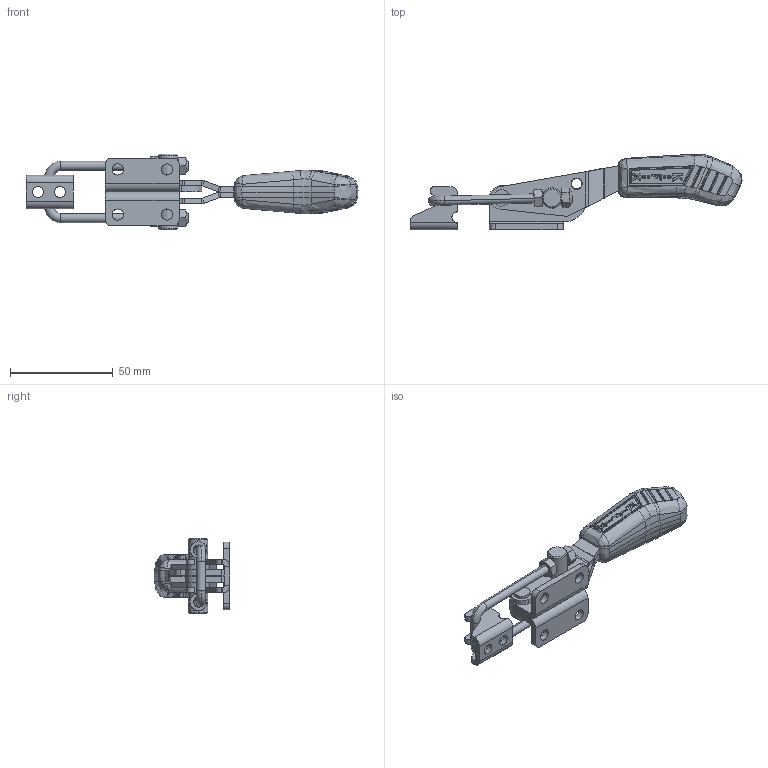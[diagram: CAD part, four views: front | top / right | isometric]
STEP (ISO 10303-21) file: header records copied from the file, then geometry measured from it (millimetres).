
FILE_DESCRIPTION (( 'STEP AP203' ), '1' );
FILE_NAME ('KF-743 DC.STEP', '2017-10-05T11:59:39', ( 'Ricardo' ), ( '' ), 'SwSTEP 2.0', 'SolidWorks 2015', '' );
FILE_SCHEMA (( 'CONFIG_CONTROL_DESIGN' ));
Length unit declared in the file: millimetre
Products named in the file (12): 16.20034; 03.20018; 15.10026; 11.50005; 11.50013; 02.12122_Direita; 07.60005; 02.12039_Esquerda; 06.50023; 01.10187_Direita; KF-743 DC; 01.10187_Esquerda
Assembly tree (13 placements, depth 2):
  KF-743 DC
    02.12122_Direita
    02.12039_Esquerda
    01.10187_Direita
    01.10187_Esquerda
    16.20034
    03.20018
    15.10026
    11.50005  x2
    11.50013  x2
    07.60005
    06.50023
Bounding box: 161.74 x 36.96 x 37 mm (x, y, z)
Volume: 37073.9 mm3; surface area: 25678.2 mm2
Topology: 13 solids, 13 shells, 930 faces, 2360 edges, 1466 vertices
Faces by surface type: cylinder 283, bspline 281, plane 242, cone 66, sphere 50, torus 8
Entity records: 34922 total; most frequent: CARTESIAN_POINT 14987, ORIENTED_EDGE 4484, DIRECTION 3078, EDGE_CURVE 2242, VERTEX_POINT 1399, AXIS2_PLACEMENT_3D 1156, EDGE_LOOP 939, ADVANCED_FACE 881
